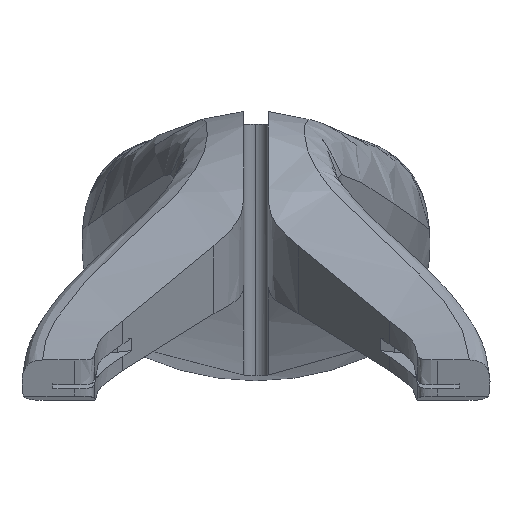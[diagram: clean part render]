
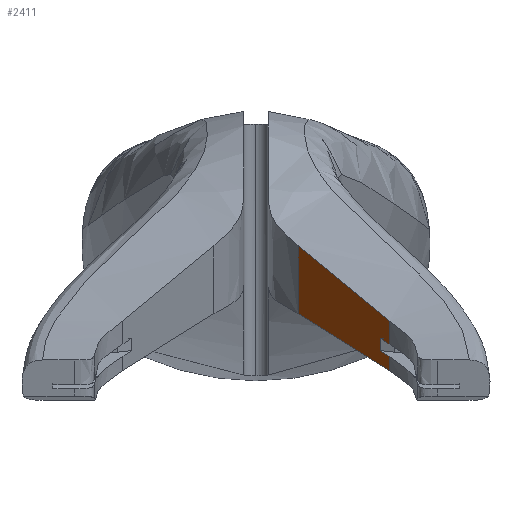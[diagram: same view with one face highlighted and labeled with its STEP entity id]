
A CAD part, top view. The second image highlights one B-rep face of the part: STEP entity #2411.
In plain terms, the highlighted planar face has unit normal (-0.887, -0.158, 0.434).
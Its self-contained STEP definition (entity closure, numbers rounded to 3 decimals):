
#70 = EDGE_CURVE ( 'NONE', #6223, #1696, #5320, .T. ) ;
#178 = CARTESIAN_POINT ( 'NONE',  ( 13.102, -9.399, 135.334 ) ) ;
#191 = CARTESIAN_POINT ( 'NONE',  ( 4.138, -7.134, 117.833 ) ) ;
#194 = EDGE_CURVE ( 'NONE', #6223, #6073, #3640, .T. ) ;
#562 = DIRECTION ( 'NONE',  ( -0.462, 0.303, -0.834 ) ) ;
#630 = CARTESIAN_POINT ( 'NONE',  ( 4.138, -2.688, 119.451 ) ) ;
#1033 = ORIENTED_EDGE ( 'NONE', *, *, #70, .F. ) ;
#1152 = CARTESIAN_POINT ( 'NONE',  ( 5.627, -1.806, 122.817 ) ) ;
#1200 = CARTESIAN_POINT ( 'NONE',  ( 13.102, -8.645, 135.609 ) ) ;
#1424 = CARTESIAN_POINT ( 'NONE',  ( 13.102, -11.374, 134.615 ) ) ;
#1603 = CARTESIAN_POINT ( 'NONE',  ( 4.138, -0.465, 120.26 ) ) ;
#1615 = CARTESIAN_POINT ( 'NONE',  ( 4.138, -0.465, 120.26 ) ) ;
#1661 = CARTESIAN_POINT ( 'NONE',  ( 13.102, -11.374, 134.615 ) ) ;
#1679 = EDGE_CURVE ( 'NONE', #4636, #4918, #2898, .T. ) ;
#1681 = CARTESIAN_POINT ( 'NONE',  ( 7.12, -3.107, 125.396 ) ) ;
#1696 = VERTEX_POINT ( 'NONE', #1661 ) ;
#1757 = VERTEX_POINT ( 'NONE', #2176 ) ;
#1975 = EDGE_CURVE ( 'NONE', #2714, #6073, #5652, .T. ) ;
#1995 = B_SPLINE_CURVE_WITH_KNOTS ( 'NONE', 3,
 ( #5269, #5760, #2917, #1424 ),
 .UNSPECIFIED., .F., .F.,
 ( 4, 4 ),
 ( 0., 1. ),
 .UNSPECIFIED. ) ;
#2012 = EDGE_CURVE ( 'NONE', #4918, #4164, #3077, .T. ) ;
#2173 = ORIENTED_EDGE ( 'NONE', *, *, #194, .T. ) ;
#2176 = CARTESIAN_POINT ( 'NONE',  ( 13.102, -12.779, 134.104 ) ) ;
#2200 = VECTOR ( 'NONE', #5393, 1000. ) ;
#2268 = B_SPLINE_CURVE_WITH_KNOTS ( 'NONE', 3,
 ( #191, #2728, #2682, #6084, #4580, #3676 ),
 .UNSPECIFIED., .F., .F.,
 ( 4, 2, 4 ),
 ( 0.022, 0.032, 0.042 ),
 .UNSPECIFIED. ) ;
#2298 = DIRECTION ( 'NONE',  ( 0.887, 0.158, -0.434 ) ) ;
#2302 = VECTOR ( 'NONE', #562, 1000. ) ;
#2346 = CARTESIAN_POINT ( 'NONE',  ( 1.2, 22.527, 122.623 ) ) ;
#2411 = ADVANCED_FACE ( 'NONE', ( #6024 ), #5713, .F. ) ;
#2545 = CARTESIAN_POINT ( 'NONE',  ( 4.138, -4.911, 118.642 ) ) ;
#2637 = ORIENTED_EDGE ( 'NONE', *, *, #5288, .T. ) ;
#2682 = CARTESIAN_POINT ( 'NONE',  ( 7.123, -8.891, 123.297 ) ) ;
#2714 = VERTEX_POINT ( 'NONE', #2949 ) ;
#2728 = CARTESIAN_POINT ( 'NONE',  ( 5.629, -7.974, 120.576 ) ) ;
#2837 = DIRECTION ( 'NONE',  ( -0.439, 0., -0.898 ) ) ;
#2898 = B_SPLINE_CURVE_WITH_KNOTS ( 'NONE', 3,
 ( #4126, #5543, #4614, #1681, #1152, #1615 ),
 .UNSPECIFIED., .F., .F.,
 ( 4, 2, 4 ),
 ( 0.012, 0.022, 0.031 ),
 .UNSPECIFIED. ) ;
#2917 = CARTESIAN_POINT ( 'NONE',  ( 13.102, -11.842, 134.445 ) ) ;
#2949 = CARTESIAN_POINT ( 'NONE',  ( 13.102, -10.152, 135.06 ) ) ;
#3075 = CARTESIAN_POINT ( 'NONE',  ( 5.539, -5.184, 121.408 ) ) ;
#3077 = B_SPLINE_CURVE_WITH_KNOTS ( 'NONE', 3,
 ( #1603, #630, #2545, #5059 ),
 .UNSPECIFIED., .F., .F.,
 ( 4, 4 ),
 ( 0., 1. ),
 .UNSPECIFIED. ) ;
#3242 = ORIENTED_EDGE ( 'NONE', *, *, #1975, .F. ) ;
#3507 = CARTESIAN_POINT ( 'NONE',  ( 12.229, 15.281, 142.532 ) ) ;
#3546 = ORIENTED_EDGE ( 'NONE', *, *, #1679, .T. ) ;
#3640 = LINE ( 'NONE', #3507, #5786 ) ;
#3676 = CARTESIAN_POINT ( 'NONE',  ( 13.102, -12.779, 134.104 ) ) ;
#3999 = DIRECTION ( 'NONE',  ( 0., 0.94, 0.342 ) ) ;
#4083 = ORIENTED_EDGE ( 'NONE', *, *, #5929, .T. ) ;
#4116 = CARTESIAN_POINT ( 'NONE',  ( 13.102, -7.891, 135.883 ) ) ;
#4125 = CARTESIAN_POINT ( 'NONE',  ( 13.102, -10.152, 135.06 ) ) ;
#4126 = CARTESIAN_POINT ( 'NONE',  ( 13.102, -7.891, 135.883 ) ) ;
#4164 = VERTEX_POINT ( 'NONE', #5429 ) ;
#4167 = CARTESIAN_POINT ( 'NONE',  ( 13.102, -7.891, 135.883 ) ) ;
#4381 = CARTESIAN_POINT ( 'NONE',  ( 12.229, -9.579, 133.484 ) ) ;
#4492 = CARTESIAN_POINT ( 'NONE',  ( 8.324, -8.235, 125.991 ) ) ;
#4580 = CARTESIAN_POINT ( 'NONE',  ( 11.607, -11.783, 131.411 ) ) ;
#4583 = EDGE_CURVE ( 'NONE', #4164, #1757, #2268, .T. ) ;
#4611 = B_SPLINE_CURVE_WITH_KNOTS ( 'NONE', 3,
 ( #4125, #178, #1200, #4167 ),
 .UNSPECIFIED., .F., .F.,
 ( 4, 4 ),
 ( 0., 1. ),
 .UNSPECIFIED. ) ;
#4614 = CARTESIAN_POINT ( 'NONE',  ( 10.109, -5.588, 130.603 ) ) ;
#4636 = VERTEX_POINT ( 'NONE', #4116 ) ;
#4918 = VERTEX_POINT ( 'NONE', #4930 ) ;
#4930 = CARTESIAN_POINT ( 'NONE',  ( 4.138, -0.465, 120.26 ) ) ;
#5059 = CARTESIAN_POINT ( 'NONE',  ( 4.138, -7.134, 117.833 ) ) ;
#5081 = EDGE_LOOP ( 'NONE', ( #1033, #2173, #3242, #2637, #3546, #5655, #5474, #4083 ) ) ;
#5082 = AXIS2_PLACEMENT_3D ( 'NONE', #2346, #2298, #2837 ) ;
#5269 = CARTESIAN_POINT ( 'NONE',  ( 13.102, -12.779, 134.104 ) ) ;
#5288 = EDGE_CURVE ( 'NONE', #2714, #4636, #4611, .T. ) ;
#5320 = LINE ( 'NONE', #4492, #2200 ) ;
#5393 = DIRECTION ( 'NONE',  ( 0.462, -0.303, 0.834 ) ) ;
#5429 = CARTESIAN_POINT ( 'NONE',  ( 4.138, -7.134, 117.833 ) ) ;
#5474 = ORIENTED_EDGE ( 'NONE', *, *, #4583, .T. ) ;
#5543 = CARTESIAN_POINT ( 'NONE',  ( 11.605, -6.77, 133.23 ) ) ;
#5652 = LINE ( 'NONE', #3075, #2302 ) ;
#5655 = ORIENTED_EDGE ( 'NONE', *, *, #2012, .T. ) ;
#5713 = PLANE ( 'NONE',  #5082 ) ;
#5760 = CARTESIAN_POINT ( 'NONE',  ( 13.102, -12.311, 134.274 ) ) ;
#5786 = VECTOR ( 'NONE', #3999, 1000. ) ;
#5929 = EDGE_CURVE ( 'NONE', #1757, #1696, #1995, .T. ) ;
#6024 = FACE_OUTER_BOUND ( 'NONE', #5081, .T. ) ;
#6073 = VERTEX_POINT ( 'NONE', #4381 ) ;
#6084 = CARTESIAN_POINT ( 'NONE',  ( 10.113, -10.795, 128.715 ) ) ;
#6139 = CARTESIAN_POINT ( 'NONE',  ( 12.229, -10.801, 133.04 ) ) ;
#6223 = VERTEX_POINT ( 'NONE', #6139 ) ;
